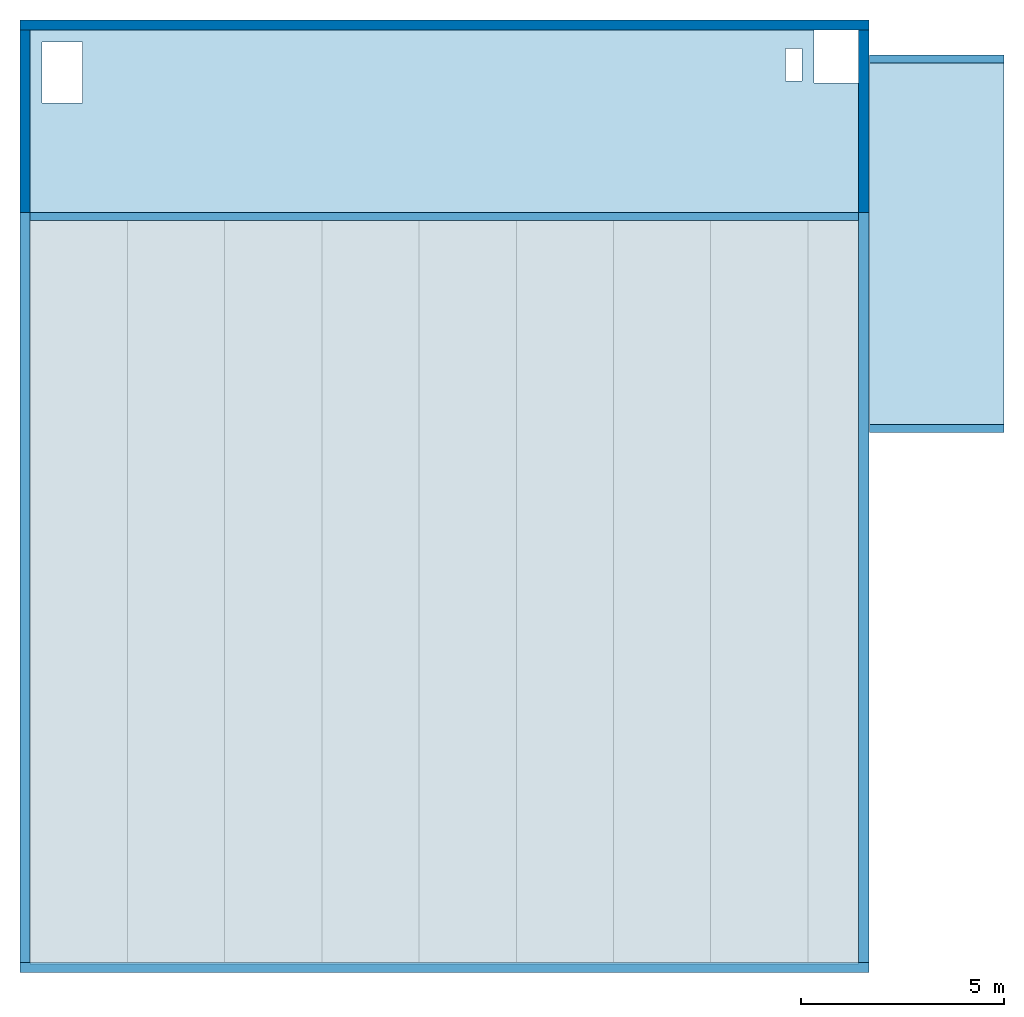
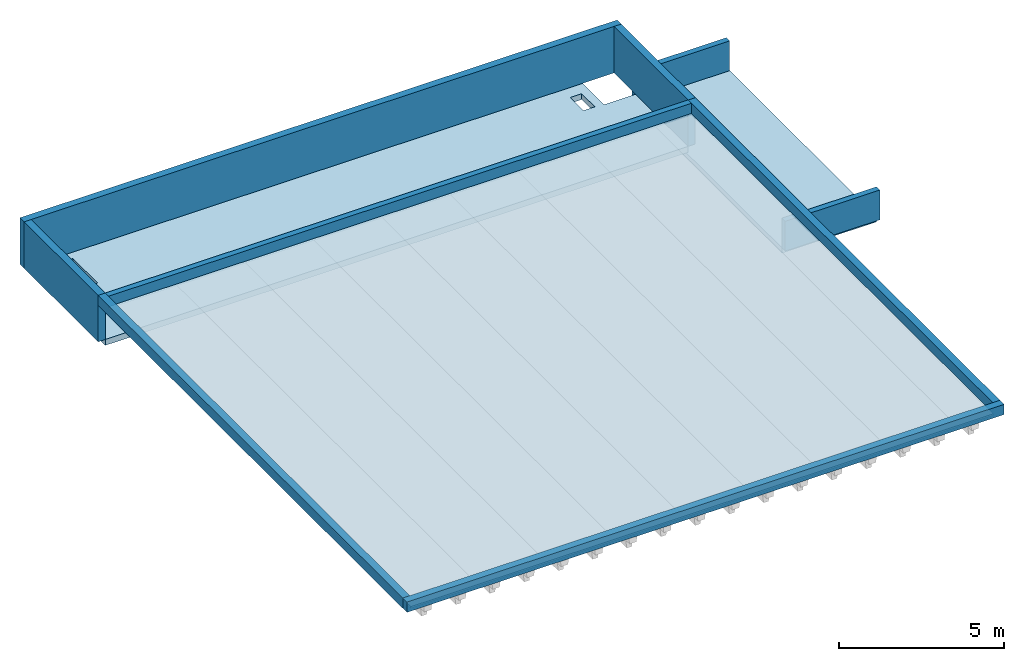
# One storey, part 1 of 2: 9 walls, 3 slabs, 2 openings.
"""IFC4 building model written with IfcOpenShell, lengths in metres."""

from ifc_helpers import new_model, entity, si_unit, converted_unit, derived_unit, frame, frame_2d, origin, origin_with_axes, place, context, subcontext, project, spatial, polyline, rectangle, outline, extrude, material, element, save


model = new_model("IFC4")

# Units and contexts
model_context = context("Model", 3, precision=1e-05, world=origin())
plan_context = context("Plan", 2, precision=1e-05, world=origin())
body_context = subcontext(model_context, "Body", "Model", "MODEL_VIEW")
ifc_project = project(units=[si_unit("LENGTHUNIT", "METRE"), si_unit("AREAUNIT", "SQUARE_METRE"), si_unit("VOLUMEUNIT", "CUBIC_METRE"), si_unit("MASSUNIT", "GRAM", prefix="KILO"), converted_unit("PLANEANGLEUNIT", "DEGREE", entity("IfcPlaneAngleMeasure", 0.0174532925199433), si_unit("PLANEANGLEUNIT", "RADIAN"), dimensions=[0, 0, 0, 0, 0, 0, 0]), derived_unit("THERMALTRANSMITTANCEUNIT", [(si_unit("POWERUNIT", "WATT"), 1), (si_unit("THERMODYNAMICTEMPERATUREUNIT", "KELVIN"), -1), (si_unit("LENGTHUNIT", "METRE"), -2)]), derived_unit("VOLUMETRICFLOWRATEUNIT", [(si_unit("LENGTHUNIT", "METRE"), 3), (converted_unit("TIMEUNIT", "hour", entity("IfcTimeMeasure", 3600.0), si_unit("TIMEUNIT", "SECOND"), dimensions=[0, 0, 1, 0, 0, 0, 0]), -1), (si_unit("LENGTHUNIT", "METRE"), -1)])], contexts=[model_context, plan_context])

# Site, building, storey
site_placement = place(None, origin())
site = spatial("IfcSite", under=ifc_project, at=site_placement, Name="Site", CompositionType="ELEMENT")
building_placement = place(site_placement, origin())
building = spatial("IfcBuilding", under=site, at=building_placement, Name="Auditorium", CompositionType="ELEMENT")
storey_placement = place(building_placement, frame((0.0, 0.0, 3.9)))
storey = spatial("IfcBuildingStorey", under=building, at=storey_placement, Name="01-Toiture", CompositionType="ELEMENT", Elevation=3.9)

# Slabs
ifc_material_1 = material(Name="C30/37")
slab_1_placement = place(storey_placement, frame((20.6698008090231, 13.2494494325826, -1.2)))
element("IfcSlab", 1, at=slab_1_placement, inside=storey, material=ifc_material_1, Name="Dalle BA 20 cm sas", PredefinedType="FLOOR", context=body_context, shape_type="SweptSolid", body=[
    extrude(rectangle(XDim=8.89999999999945, YDim=3.30999999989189, at=frame_2d((-1.65499999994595, 4.44999999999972), x_axis=(0.0, 1.0))), frame((3.30999999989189, 0.0, 0.0), z_axis=(0.0, 0.0, 1.0), x_axis=(1.0, 0.0, 0.0)), (0.0, 0.0, 1.0), 0.2),
])
ifc_material_2 = material(Name="Béton armé")
slab_2_placement = place(storey_placement, frame((-0.0001994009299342, -0.0505506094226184, 0.96)))
element("IfcSlab", 2, at=slab_2_placement, inside=storey, material=ifc_material_2, Name="Dalles TT", PredefinedType="FLOOR", context=body_context, shape_type="SweptSolid", body=[
    extrude(rectangle(XDim=20.3999999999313, YDim=18.320101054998, at=frame_2d((10.1999999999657, 9.16005052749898), x_axis=(1.0, 0.0))), origin_with_axes(), (0.0, 0.0, 1.0), 0.06),
])

# Slab, openings
ifc_material_3 = material(Name="Hourdis BA 16+6")
slab_3_placement = place(storey_placement, frame((-0.000199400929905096, 18.4695504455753, -0.54)))
slab_3 = element("IfcSlab", 3, at=slab_3_placement, inside=storey, material=ifc_material_3, Name="Hourdis BA 16+6", PredefinedType="FLOOR", context=body_context, shape_type="SweptSolid", body=[
    extrude(outline(polyline([(19.2999999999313, 4.48609427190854), (0.0, 4.48609427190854), (0.0, 0.0), (20.3999999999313, 0.0), (20.3999999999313, 3.18609427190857), (19.2999999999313, 3.18609427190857), (19.2999999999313, 4.48609427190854)])), origin_with_axes(), (0.0, 0.0, 1.0), 0.22),
])
opening_1_placement = place(slab_3_placement, frame((18.5999999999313, 3.22989894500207, 0.0)))
element("IfcOpeningElement", 4, at=opening_1_placement, cuts=slab_3, Name="Trémie dans dalle", ObjectType="Opening", context=body_context, shape_type="SweptSolid", body=[
    extrude(rectangle(XDim=0.8, YDim=0.4, at=frame_2d((0.0, -3.63797880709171e-15), x_axis=(0.0, 1.0))), frame((0.2, 0.400000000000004, 0.0), z_axis=(0.0, 0.0, 1.0), x_axis=(1.0, 0.0, 0.0)), (0.0, 0.0, 1.0), 0.22),
])
opening_2_placement = place(slab_3_placement, frame((0.290008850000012, 2.69602844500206, 0.0)))
element("IfcOpeningElement", 5, at=opening_2_placement, cuts=slab_3, Name="Trémie dans dalle", ObjectType="Opening", context=body_context, shape_type="SweptSolid", body=[
    extrude(rectangle(XDim=1.00000009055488, YDim=1.5, at=frame_2d((0.0, 0.0), x_axis=(-1.0, 0.0))), frame((0.50000004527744, 0.75, 0.0), z_axis=(0.0, 0.0, 1.0), x_axis=(1.0, 0.0, 0.0)), (0.0, 0.0, 1.0), 0.22),
])

# Walls
ifc_material_4 = material(Name="C30/37")
wall_1_placement = place(storey_placement, frame((23.9797893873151, 22.349449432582, -1.0), z_axis=(0.0, 0.0, 1.0), x_axis=(-1.0, 0.0, 0.0)))
element("IfcWall", 6, at=wall_1_placement, inside=storey, material=ifc_material_4, Name="Acrotère Axe 1.7", context=body_context, shape_type="SweptSolid", body=[
    extrude(rectangle(XDim=3.30998857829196, YDim=0.2, at=frame_2d((1.65499428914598, 0.1), x_axis=(1.0, 0.0))), origin_with_axes(), (0.0, 0.0, 1.0), 1.1),
])
ifc_material_5 = material(Name="C30/37")
wall_2_placement = place(storey_placement, frame((23.9797893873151, 13.2494494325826, -1.0), z_axis=(0.0, 0.0, 1.0), x_axis=(-1.0, 0.0, 0.0)))
element("IfcWall", 7, at=wall_2_placement, inside=storey, material=ifc_material_5, Name="Acrotère Axe 1.3", context=body_context, shape_type="SweptSolid", body=[
    extrude(rectangle(XDim=3.30998857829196, YDim=0.2, at=frame_2d((1.65499428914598, 0.1), x_axis=(1.0, 0.0))), origin_with_axes(), (0.0, 0.0, 1.0), 1.1),
])
ifc_material_6 = material(Name="C30/37")
wall_3_placement = place(storey_placement, frame((20.6498005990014, 23.2056447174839, -0.32), z_axis=(0.0, 0.0, 1.0), x_axis=(-1.0, 0.0, 0.0)))
element("IfcWall", 8, at=wall_3_placement, inside=storey, material=ifc_material_6, Name="Acrotère Axe 1.7", context=body_context, shape_type="SweptSolid", body=[
    extrude(rectangle(XDim=20.8999999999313, YDim=0.249999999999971, at=frame_2d((10.4499999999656, 0.124999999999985), x_axis=(1.0, 0.0))), origin_with_axes(), (0.0, 0.0, 1.0), 1.72),
])
ifc_material_7 = material(Name="C30/37")
wall_4_placement = place(storey_placement, frame((-0.250199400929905, -0.250550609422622, 1.02)))
element("IfcWall", 9, at=wall_4_placement, inside=storey, material=ifc_material_7, Name="Acrotère Axe 1.1", context=body_context, shape_type="SweptSolid", body=[
    extrude(rectangle(XDim=20.8999999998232, YDim=0.249999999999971, at=frame_2d((10.4499999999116, 0.124999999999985), x_axis=(1.0, 0.0))), origin_with_axes(), (0.0, 0.0, 1.0), 0.38),
])
ifc_material_8 = material(Name="C30/37")
wall_5_placement = place(storey_placement, frame((20.6498005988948, -0.000550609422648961, 1.02), z_axis=(0.0, 0.0, 1.0), x_axis=(5.77346244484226e-12, 1.0, 0.0)))
element("IfcWall", 10, at=wall_5_placement, inside=storey, material=ifc_material_8, Name="Acrotère Axe 1.D", context=body_context, shape_type="SweptSolid", body=[
    extrude(rectangle(XDim=18.470101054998, YDim=0.249999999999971, at=frame_2d((9.23505052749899, 0.124999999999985), x_axis=(1.0, 0.0))), origin_with_axes(), (0.0, 0.0, 1.0), 0.38),
])
ifc_material_9 = material(Name="C30/37")
wall_6_placement = place(storey_placement, frame((-0.250199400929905, 18.4695504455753, 1.02), z_axis=(0.0, 0.0, 1.0), x_axis=(0.0, -1.0, 0.0)))
element("IfcWall", 11, at=wall_6_placement, inside=storey, material=ifc_material_9, Name="Acrotère Axe 1.A", context=body_context, shape_type="SweptSolid", body=[
    extrude(rectangle(XDim=18.470101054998, YDim=0.249999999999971, at=frame_2d((9.23505052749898, 0.124999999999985), x_axis=(1.0, 0.0))), origin_with_axes(), (0.0, 0.0, 1.0), 0.38),
])
ifc_material_10 = material(Name="C30/37")
wall_7_placement = place(storey_placement, frame((20.3998005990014, 18.4695504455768, 1.02), z_axis=(0.0, 0.0, 1.0), x_axis=(-1.0, -7.1332917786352e-14, 0.0)))
element("IfcWall", 12, at=wall_7_placement, inside=storey, material=ifc_material_10, Name="Acrotère Axe 1.5", context=body_context, shape_type="SweptSolid", body=[
    extrude(rectangle(XDim=20.3999999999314, YDim=0.2, at=frame_2d((10.1999999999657, 0.1), x_axis=(1.0, 0.0))), origin_with_axes(), (0.0, 0.0, 1.0), 0.38),
])
ifc_material_11 = material(Name="C30/37")
wall_8_placement = place(storey_placement, frame((20.6498005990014, 18.4695504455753, -0.32), z_axis=(0.0, 0.0, 1.0), x_axis=(0.0, 1.0, 0.0)))
element("IfcWall", 13, at=wall_8_placement, inside=storey, material=ifc_material_11, Name="Acrotère Axe 1.D", context=body_context, shape_type="SweptSolid", body=[
    extrude(rectangle(XDim=4.48609427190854, YDim=0.249999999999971, at=frame_2d((2.24304713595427, 0.124999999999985), x_axis=(1.0, 0.0))), origin_with_axes(), (0.0, 0.0, 1.0), 1.72),
])
ifc_material_12 = material(Name="C30/37")
wall_9_placement = place(storey_placement, frame((-0.250199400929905, 22.9556447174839, -0.32), z_axis=(0.0, 0.0, 1.0), x_axis=(0.0, -1.0, 0.0)))
element("IfcWall", 14, at=wall_9_placement, inside=storey, material=ifc_material_12, Name="Acrotère Axe 1.A", context=body_context, shape_type="SweptSolid", body=[
    extrude(rectangle(XDim=4.48609427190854, YDim=0.249999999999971, at=frame_2d((2.24304713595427, 0.124999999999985), x_axis=(1.0, 0.0))), origin_with_axes(), (0.0, 0.0, 1.0), 1.72),
])

save(model, "model.ifc")
